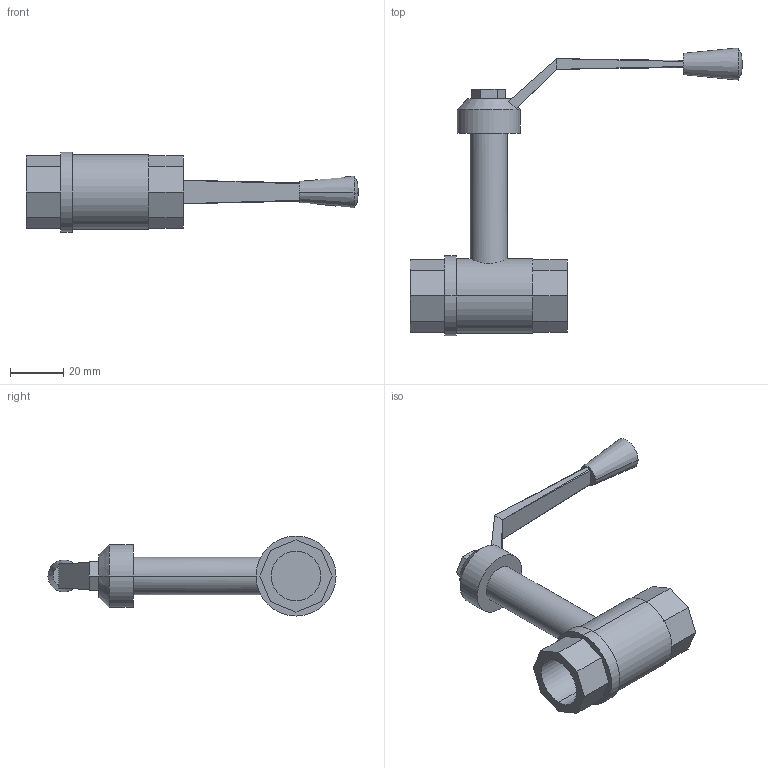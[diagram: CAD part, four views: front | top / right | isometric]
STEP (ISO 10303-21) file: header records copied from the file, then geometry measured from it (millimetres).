
FILE_DESCRIPTION(('Creo Elements/Direct Modeling STEP Export'),'2;1');
FILE_NAME('1640040000.stp','2021-05-24T11:56:13',(''),(''),'Creo Elements/Direct Modeling STEP processor for AP214 (Solid Model)','Creo Elements/Direct Modeling 20.1D 10-Oct-2020 (C) Parametric Technology GmbH','');
FILE_SCHEMA(('AUTOMOTIVE_DESIGN { 1 0 10303 214 1 1 1 1 }'));
Length unit declared in the file: millimetre
Products named in the file (2): 1640040000
Assembly tree (1 placements, depth 2):
  1640040000
    1640040000
Bounding box: 124.5 x 108 x 30 mm (x, y, z)
Volume: 42594.7 mm3; surface area: 14232.9 mm2
Topology: 1 solids, 1 shells, 64 faces, 158 edges, 101 vertices
Faces by surface type: plane 42, cylinder 12, cone 4, bspline 4, torus 2
Entity records: 1863 total; most frequent: CARTESIAN_POINT 405, ORIENTED_EDGE 308, DIRECTION 266, EDGE_CURVE 154, VECTOR 102, LINE 102, VERTEX_POINT 101, AXIS2_PLACEMENT_3D 82
